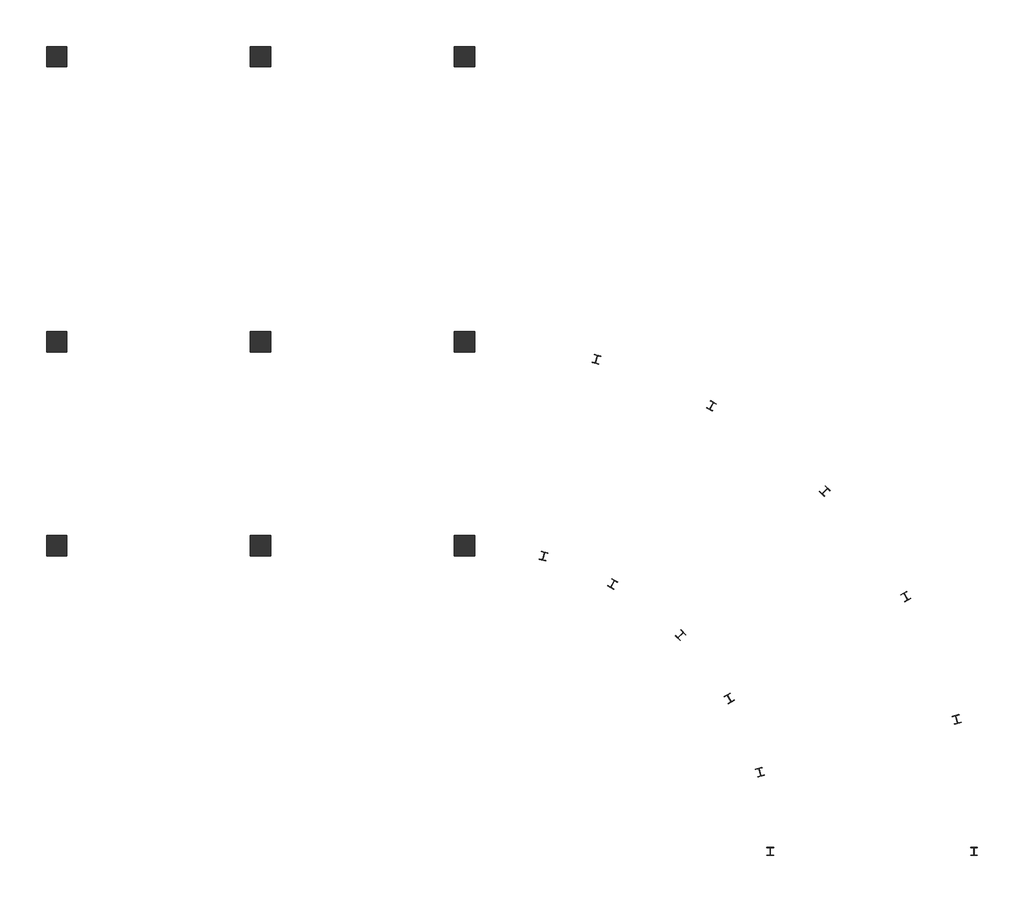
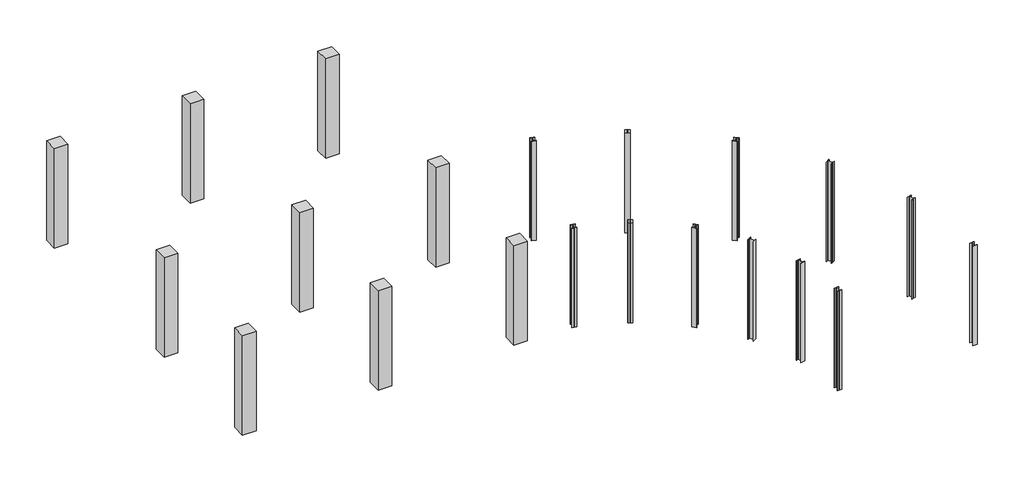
# One storey: 21 columns.
"""IFC4 building model written with IfcOpenShell, lengths in millimetres."""

from ifc_helpers import new_model, si_unit, frame, origin, place, context, project, spatial, polyline, outline, extrude, transform, mapped, element, save
from components import w_shapes_column_w10x33_dbc38788

model = new_model("IFC4")

# Units and contexts
model_context = context("Model", 3, world=origin())
ifc_project = project(units=[si_unit("LENGTHUNIT", "METRE", prefix="MILLI")], contexts=[model_context])

# Site, building, storey
site = spatial("IfcSite", under=ifc_project)
building = spatial("IfcBuilding", under=site)
storey = spatial("IfcBuildingStorey", under=building, Name="T.O.F", Elevation=-1676.4)

# Columns
placement = place(None, origin())
element("IfcColumn", 1, ObjectType="Concrete-Rectangular-Column : 24 x 24", at=placement, inside=storey, context=model_context, shape_type="SweptSolid", body=[
    extrude(outline(polyline([(-26717.2148109, -1707.750522), (-26717.2148109, -1098.150522), (-26107.6148109, -1098.150522), (-26107.6148109, -1707.750522), (-26717.2148109, -1707.750522)])), frame((0.0, 0.0, -1676.4), z_axis=(0.0, 0.0, 1.0), x_axis=(1.0, 0.0, 0.0)), (0.0, 0.0, 1.0), 4724.4),
])
element("IfcColumn", 2, ObjectType="Concrete-Rectangular-Column : 24 x 24", at=placement, inside=storey, context=model_context, shape_type="SweptSolid", body=[
    extrude(outline(polyline([(-26717.2148109, 4388.249478), (-26717.2148109, 4997.849478), (-26107.6148109, 4997.849478), (-26107.6148109, 4388.249478), (-26717.2148109, 4388.249478)])), frame((0.0, 0.0, -1676.4), z_axis=(0.0, 0.0, 1.0), x_axis=(1.0, 0.0, 0.0)), (0.0, 0.0, 1.0), 4724.4),
])
element("IfcColumn", 3, ObjectType="Concrete-Rectangular-Column : 24 x 24", at=placement, inside=storey, context=model_context, shape_type="SweptSolid", body=[
    extrude(outline(polyline([(-26717.2148109, 12922.649478), (-26717.2148109, 13532.249478), (-26107.6148109, 13532.249478), (-26107.6148109, 12922.649478), (-26717.2148109, 12922.649478)])), frame((0.0, 0.0, -1676.4), z_axis=(0.0, 0.0, 1.0), x_axis=(1.0, 0.0, 0.0)), (0.0, 0.0, 1.0), 4724.4),
])
element("IfcColumn", 4, ObjectType="Concrete-Rectangular-Column : 24 x 24", at=placement, inside=storey, context=model_context, shape_type="SweptSolid", body=[
    extrude(outline(polyline([(-32813.2148109, -1707.750522), (-32813.2148109, -1098.150522), (-32203.6148109, -1098.150522), (-32203.6148109, -1707.750522), (-32813.2148109, -1707.750522)])), frame((0.0, 0.0, -1676.4), z_axis=(0.0, 0.0, 1.0), x_axis=(1.0, 0.0, 0.0)), (0.0, 0.0, 1.0), 4724.4),
])
element("IfcColumn", 5, ObjectType="Concrete-Rectangular-Column : 24 x 24", at=placement, inside=storey, context=model_context, shape_type="SweptSolid", body=[
    extrude(outline(polyline([(-32813.2148109, 4388.249478), (-32813.2148109, 4997.849478), (-32203.6148109, 4997.849478), (-32203.6148109, 4388.249478), (-32813.2148109, 4388.249478)])), frame((0.0, 0.0, -1676.4), z_axis=(0.0, 0.0, 1.0), x_axis=(1.0, 0.0, 0.0)), (0.0, 0.0, 1.0), 4724.4),
])
element("IfcColumn", 6, ObjectType="Concrete-Rectangular-Column : 24 x 24", at=placement, inside=storey, context=model_context, shape_type="SweptSolid", body=[
    extrude(outline(polyline([(-32813.2148109, 12922.649478), (-32813.2148109, 13532.249478), (-32203.6148109, 13532.249478), (-32203.6148109, 12922.649478), (-32813.2148109, 12922.649478)])), frame((0.0, 0.0, -1676.4), z_axis=(0.0, 0.0, 1.0), x_axis=(1.0, 0.0, 0.0)), (0.0, 0.0, 1.0), 4724.4),
])
element("IfcColumn", 7, ObjectType="Concrete-Rectangular-Column : 24 x 24", at=placement, inside=storey, context=model_context, shape_type="SweptSolid", body=[
    extrude(outline(polyline([(-38909.2148109, -1707.750522), (-38909.2148109, -1098.150522), (-38299.6148109, -1098.150522), (-38299.6148109, -1707.750522), (-38909.2148109, -1707.750522)])), frame((0.0, 0.0, -1676.4), z_axis=(0.0, 0.0, 1.0), x_axis=(1.0, 0.0, 0.0)), (0.0, 0.0, 1.0), 4724.4),
])
element("IfcColumn", 8, ObjectType="Concrete-Rectangular-Column : 24 x 24", at=placement, inside=storey, context=model_context, shape_type="SweptSolid", body=[
    extrude(outline(polyline([(-38909.2148109, 4388.249478), (-38909.2148109, 4997.849478), (-38299.6148109, 4997.849478), (-38299.6148109, 4388.249478), (-38909.2148109, 4388.249478)])), frame((0.0, 0.0, -1676.4), z_axis=(0.0, 0.0, 1.0), x_axis=(1.0, 0.0, 0.0)), (0.0, 0.0, 1.0), 4724.4),
])
element("IfcColumn", 9, ObjectType="Concrete-Rectangular-Column : 24 x 24", at=placement, inside=storey, context=model_context, shape_type="SweptSolid", body=[
    extrude(outline(polyline([(-38909.2148109, 12922.649478), (-38909.2148109, 13532.249478), (-38299.6148109, 13532.249478), (-38299.6148109, 12922.649478), (-38909.2148109, 12922.649478)])), frame((0.0, 0.0, -1676.4), z_axis=(0.0, 0.0, 1.0), x_axis=(1.0, 0.0, 0.0)), (0.0, 0.0, 1.0), 4724.4),
])
w_shapes_column_w10x33_shape = w_shapes_column_w10x33_dbc38788(model_context)
element("IfcColumn", 10, ObjectType="W Shapes-Column : W10X33", at=placement, inside=storey, context=model_context, shape_type="MappedRepresentation", body=[
    mapped(w_shapes_column_w10x33_shape, transform((-17268.4148109, -10546.950522, 0.0), x_axis=(1.0, 0.0, 0.0), y_axis=(0.0, 1.0, 0.0), z_axis=(0.0, 0.0, 1.0))),
])
element("IfcColumn", 11, ObjectType="W Shapes-Column : W10X33", at=placement, inside=storey, context=model_context, shape_type="MappedRepresentation", body=[
    mapped(w_shapes_column_w10x33_shape, transform((-11172.4148109, -10546.950522, 0.0), x_axis=(1.0, 0.0, 0.0), y_axis=(0.0, 1.0, 0.0), z_axis=(0.0, 0.0, 1.0))),
])
element("IfcColumn", 12, ObjectType="W Shapes-Column : W10X33", at=placement, inside=storey, context=model_context, shape_type="MappedRepresentation", body=[
    mapped(w_shapes_column_w10x33_shape, transform((-17579.9890553, -8180.3091736, 0.0), x_axis=(0.9659258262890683, 0.2588190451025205, 0.0), y_axis=(-0.2588190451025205, 0.9659258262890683, 0.0), z_axis=(0.0, 0.0, 1.0))),
])
element("IfcColumn", 13, ObjectType="W Shapes-Column : W10X33", at=placement, inside=storey, context=model_context, shape_type="MappedRepresentation", body=[
    mapped(w_shapes_column_w10x33_shape, transform((-11691.7052182, -6602.5482746, 0.0), x_axis=(0.9659258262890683, 0.2588190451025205, 0.0), y_axis=(-0.2588190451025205, 0.9659258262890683, 0.0), z_axis=(0.0, 0.0, 1.0))),
])
element("IfcColumn", 14, ObjectType="W Shapes-Column : W10X33", at=placement, inside=storey, context=model_context, shape_type="MappedRepresentation", body=[
    mapped(w_shapes_column_w10x33_shape, transform((-18493.4785187, -5974.950522, 0.0), x_axis=(0.8660254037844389, 0.4999999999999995, 0.0), y_axis=(-0.4999999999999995, 0.8660254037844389, 0.0), z_axis=(0.0, 0.0, 1.0))),
])
element("IfcColumn", 15, ObjectType="W Shapes-Column : W10X33", at=placement, inside=storey, context=model_context, shape_type="MappedRepresentation", body=[
    mapped(w_shapes_column_w10x33_shape, transform((-13214.1876572, -2926.950522, 0.0), x_axis=(0.8660254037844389, 0.4999999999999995, 0.0), y_axis=(-0.4999999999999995, 0.8660254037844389, 0.0), z_axis=(0.0, 0.0, 1.0))),
])
element("IfcColumn", 16, ObjectType="W Shapes-Column : W10X33", at=placement, inside=storey, context=model_context, shape_type="MappedRepresentation", body=[
    mapped(w_shapes_column_w10x33_shape, transform((-19946.6304037, -4081.1661148, 0.0), x_axis=(0.707106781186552, -0.707106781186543, 0.0), y_axis=(0.707106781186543, 0.707106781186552, 0.0), z_axis=(0.0, 0.0, 1.0))),
])
element("IfcColumn", 17, ObjectType="W Shapes-Column : W10X33", at=placement, inside=storey, context=model_context, shape_type="MappedRepresentation", body=[
    mapped(w_shapes_column_w10x33_shape, transform((-15636.1074656, 229.3568233, 0.0), x_axis=(0.7071067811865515, -0.7071067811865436, 0.0), y_axis=(0.7071067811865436, 0.7071067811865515, 0.0), z_axis=(0.0, 0.0, 1.0))),
])
element("IfcColumn", 18, ObjectType="W Shapes-Column : W10X33", at=placement, inside=storey, context=model_context, shape_type="MappedRepresentation", body=[
    mapped(w_shapes_column_w10x33_shape, transform((-21979.3156433, -2549.4279199, 0.0), x_axis=(0.8746197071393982, -0.4848096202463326, 0.0), y_axis=(0.4848096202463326, 0.8746197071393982, 0.0), z_axis=(0.0, 0.0, 1.0))),
])
element("IfcColumn", 19, ObjectType="W Shapes-Column : W10X33", at=placement, inside=storey, context=model_context, shape_type="MappedRepresentation", body=[
    mapped(w_shapes_column_w10x33_shape, transform((-19023.9161983, 2782.2538148, 0.0), x_axis=(0.8746197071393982, -0.4848096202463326, 0.0), y_axis=(0.4848096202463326, 0.8746197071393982, 0.0), z_axis=(0.0, 0.0, 1.0))),
])
element("IfcColumn", 20, ObjectType="W Shapes-Column : W10X33", at=placement, inside=storey, context=model_context, shape_type="MappedRepresentation", body=[
    mapped(w_shapes_column_w10x33_shape, transform((-24045.7734625, -1714.5247664, 0.0), x_axis=(0.9659258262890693, -0.25881904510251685, 0.0), y_axis=(0.25881904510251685, 0.9659258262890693, 0.0), z_axis=(0.0, 0.0, 1.0))),
])
element("IfcColumn", 21, ObjectType="W Shapes-Column : W10X33", at=placement, inside=storey, context=model_context, shape_type="MappedRepresentation", body=[
    mapped(w_shapes_column_w10x33_shape, transform((-22468.0125635, 4173.7590707, 0.0), x_axis=(0.9659258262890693, -0.25881904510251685, 0.0), y_axis=(0.25881904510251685, 0.9659258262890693, 0.0), z_axis=(0.0, 0.0, 1.0))),
])

save(model, "model.ifc")
